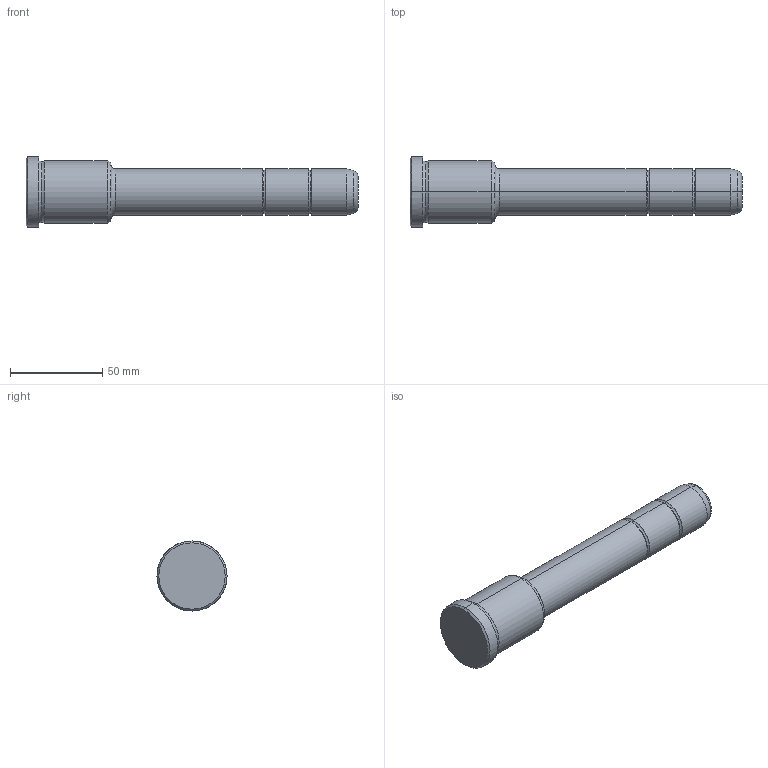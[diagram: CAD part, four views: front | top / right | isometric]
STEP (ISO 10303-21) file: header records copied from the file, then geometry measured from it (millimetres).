
FILE_DESCRIPTION(('CATIA V5 STEP Exchange'),'2;1');
FILE_NAME('C:\Users\Utente\Desktop\IO LAVORO\3D X SITO CF\X SITO\PLASTICA\351\351-25X46X180.stp','2021-08-28T07:34:32+00:00',('none'),('none'),'CATIA Version 5 Release 20 GA (IN-10)','CATIA V5 STEP AP203','none');
FILE_SCHEMA(('CONFIG_CONTROL_DESIGN'));
Length unit declared in the file: millimetre
Products named in the file (1): 351-25X46X180
Bounding box: 180 x 38 x 38 mm (x, y, z)
Volume: 108335.7 mm3; surface area: 17484 mm2
Topology: 1 solids, 1 shells, 36 faces, 102 edges, 70 vertices
Faces by surface type: torus 16, cylinder 10, cone 6, plane 4
Entity records: 1292 total; most frequent: CARTESIAN_POINT 321, ORIENTED_EDGE 204, DIRECTION 166, AXIS2_PLACEMENT_3D 115, EDGE_CURVE 102, CIRCLE 78, VERTEX_POINT 70, EDGE_LOOP 38
